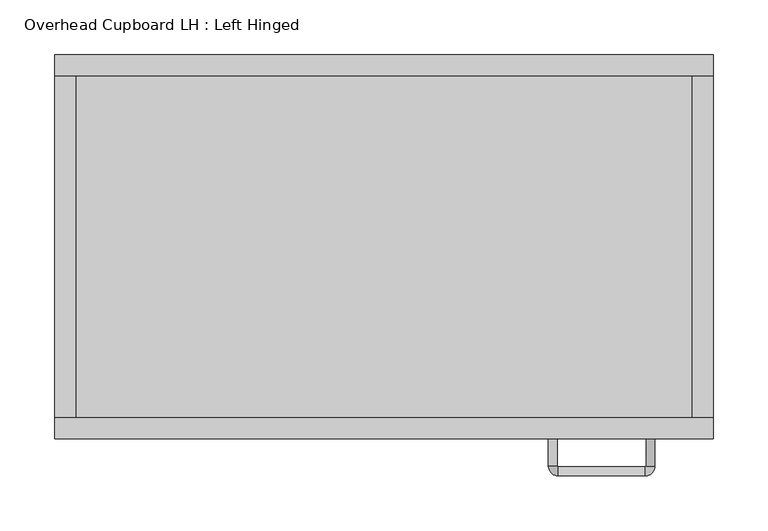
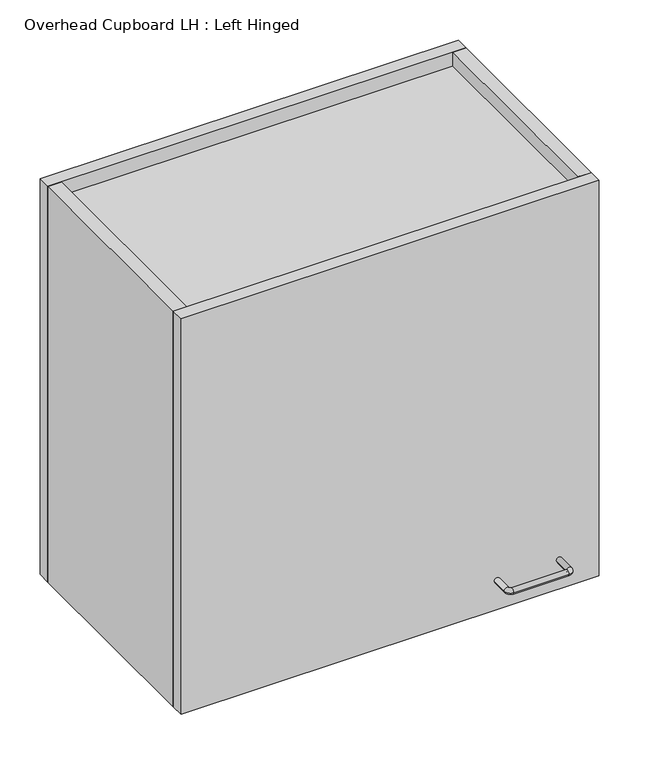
"""IFC4 building model written with IfcOpenShell, lengths in millimetres: furniture geometry, Overhead Cupboard LH : Left Hinged."""

import ifcopenshell
import ifcopenshell.guid

model = None  # the IFC model being written
_history = None  # IfcOwnerHistory: only IFC2X3 demands one
_inside = {}  # id of a spatial element -> (the spatial element, [elements in it])
_under = {}  # id of a project, library or spatial element -> (it, [spatial elements below it])
_declared = {}  # id of a project -> (the project, [libraries it declares])
_typed = {}  # id of a type object -> (the type object, [elements of that type])
_made_of = {}  # id of a material, layer set ... -> (it, [elements and type objects made of it])


def new_model(schema):
    """Start an empty IFC model of exactly this schema.

    Asked for "IFC4X3", IfcOpenShell would pick the latest addendum, in which some entities
    have other attributes; the version numbers below select the first issue.
    IFC2X3 requires an IfcOwnerHistory on every rooted entity: one is made here for all.
    """
    global model, _history
    if schema == "IFC4X3":
        model = ifcopenshell.file(schema_version=(4, 3, 0, 0))
    else:
        model = ifcopenshell.file(schema=schema)
    _inside.clear()
    _under.clear()
    _declared.clear()
    _typed.clear()
    _made_of.clear()
    _history = None
    if model.schema == "IFC2X3":
        org = make("IfcOrganization", Name="unknown")
        user = make(
            "IfcPersonAndOrganization",
            ThePerson=make("IfcPerson", FamilyName="unknown"),
            TheOrganization=org,
        )
        app = make(
            "IfcApplication",
            ApplicationDeveloper=org,
            Version="unknown",
            ApplicationFullName="unknown",
            ApplicationIdentifier="unknown",
        )
        _history = make(
            "IfcOwnerHistory",
            OwningUser=user,
            OwningApplication=app,
            ChangeAction="ADDED",
            CreationDate=0,
        )
    return model


def make(cls, **values):
    """One entity of the class cls with the attributes given. An attribute that is None is left unset."""
    return model.create_entity(
        cls, **{name: value for name, value in values.items() if value is not None}
    )


def rooted(cls, **values):
    """An entity with a GlobalId (a new one), such as an element, a storey or a relation."""
    return make(cls, GlobalId=ifcopenshell.guid.new(), OwnerHistory=_history, **values)


def si_unit(unit_type, name, prefix=None):
    """IfcSIUnit, for example si_unit("LENGTHUNIT", "METRE", prefix="MILLI")."""
    return make("IfcSIUnit", UnitType=unit_type, Prefix=prefix, Name=name)


def assignment(units):
    """IfcUnitAssignment: the units of a project."""
    return None if units is None else make("IfcUnitAssignment", Units=units)


def point(xyz):
    """IfcCartesianPoint."""
    return None if xyz is None else make("IfcCartesianPoint", Coordinates=xyz)


def direction(xyz):
    """IfcDirection."""
    return None if xyz is None else make("IfcDirection", DirectionRatios=xyz)


def frame(location, z_axis=None, x_axis=None):
    """IfcAxis2Placement3D, a coordinate frame: its origin and axes. An axis left out is left unset."""
    return make(
        "IfcAxis2Placement3D",
        Location=point(location),
        Axis=direction(z_axis),
        RefDirection=direction(x_axis),
    )


def origin():
    """The frame at (0, 0, 0) with its axes left unset."""
    return frame((0.0, 0.0, 0.0))


def place(relative_to, where):
    """IfcLocalPlacement: puts the frame where relative to a parent placement (None: the world)."""
    return make(
        "IfcLocalPlacement", PlacementRelTo=relative_to, RelativePlacement=where
    )


def context(
    kind, dimensions, precision=None, world=None, true_north=None, identifier=None
):
    """IfcGeometricRepresentationContext, for example the 3D "Model" context."""
    return make(
        "IfcGeometricRepresentationContext",
        ContextIdentifier=identifier,
        ContextType=kind,
        CoordinateSpaceDimension=dimensions,
        Precision=precision,
        WorldCoordinateSystem=world,
        TrueNorth=true_north,
    )


def project(units=None, contexts=None):
    """IfcProject with its units and contexts."""
    return rooted(
        "IfcProject",
        Name="project",
        RepresentationContexts=contexts,
        UnitsInContext=assignment(units),
    )


def spatial(cls, under=None, at=None, **own):
    """A site, building, storey or space (cls), placed at a placement, below another one or the project."""
    s = rooted(cls, ObjectPlacement=at, **own)
    if under is not None:
        _under.setdefault(under.id(), (under, []))[1].append(s)
    return s


def polyline(points):
    """IfcPolyline through the points."""
    return make("IfcPolyline", Points=[point(p) for p in points])


def circle_curve(where, radius):
    """IfcCircle in the frame where."""
    return make("IfcCircle", Position=where, Radius=radius)


def ellipse_curve(where, semi_axis1, semi_axis2):
    """IfcEllipse in the frame where."""
    return make(
        "IfcEllipse", Position=where, SemiAxis1=semi_axis1, SemiAxis2=semi_axis2
    )


def trimmed(basis, trim1, trim2, sense, master):
    """IfcTrimmedCurve: the piece of a basis curve between two trims."""
    return make(
        "IfcTrimmedCurve",
        BasisCurve=basis,
        Trim1=trim1,
        Trim2=trim2,
        SenseAgreement=sense,
        MasterRepresentation=master,
    )


def outline(outer, holes=None, kind="AREA"):
    """IfcArbitraryClosedProfileDef: a profile drawn as a closed curve; with holes, ...WithVoids."""
    if holes is None:
        return make("IfcArbitraryClosedProfileDef", ProfileType=kind, OuterCurve=outer)
    return make(
        "IfcArbitraryProfileDefWithVoids",
        ProfileType=kind,
        OuterCurve=outer,
        InnerCurves=holes,
    )


def extrude(swept, where, along, depth):
    """IfcExtrudedAreaSolid: the profile swept, set in the frame where, extruded along a direction by depth."""
    return make(
        "IfcExtrudedAreaSolid",
        SweptArea=swept,
        Position=where,
        ExtrudedDirection=direction(along),
        Depth=depth,
    )


def shape(context_of_items, identifier, shape_type, items):
    """IfcShapeRepresentation: the items that make up one representation, for example the "Body"."""
    return make(
        "IfcShapeRepresentation",
        ContextOfItems=context_of_items,
        RepresentationIdentifier=identifier,
        RepresentationType=shape_type,
        Items=items,
    )


def source(mapping_origin, context_of_items, identifier, shape_type, items):
    """IfcRepresentationMap: a shape defined once, which mapped items show again and again."""
    return make(
        "IfcRepresentationMap",
        MappingOrigin=mapping_origin,
        MappedRepresentation=shape(context_of_items, identifier, shape_type, items),
    )


def transform(
    local_origin,
    x_axis=None,
    y_axis=None,
    z_axis=None,
    scale=None,
    scale2=None,
    scale3=None,
    uniform=True,
):
    """IfcCartesianTransformationOperator3D, or its non-uniform kind. x_axis, y_axis, z_axis: its Axis1, 2, 3."""
    if uniform:
        return make(
            "IfcCartesianTransformationOperator3D",
            Axis1=direction(x_axis),
            Axis2=direction(y_axis),
            LocalOrigin=point(local_origin),
            Scale=scale,
            Axis3=direction(z_axis),
        )
    return make(
        "IfcCartesianTransformationOperator3DnonUniform",
        Axis1=direction(x_axis),
        Axis2=direction(y_axis),
        LocalOrigin=point(local_origin),
        Scale=scale,
        Axis3=direction(z_axis),
        Scale2=scale2,
        Scale3=scale3,
    )


def mapped(mapping_source, mapping_target):
    """IfcMappedItem: shows the shape of a source again, moved by a transform."""
    return make(
        "IfcMappedItem", MappingSource=mapping_source, MappingTarget=mapping_target
    )


def made_of(thing, what):
    """Note that an element or type object is made of a material, layer set ...; save() writes the relation."""
    if what is not None:
        _made_of.setdefault(what.id(), (what, []))[1].append(thing)
    return thing


def element(
    cls,
    number,
    at=None,
    inside=None,
    cuts=None,
    type_object=None,
    material=None,
    context=None,
    identifier="Body",
    shape_type=None,
    held_by="IfcProductDefinitionShape",
    body=None,
    shapes=None,
    **own,
):
    """One element of the class cls, such as IfcWall. Its Tag is "e" and its number.

    at: its placement. inside: the storey or other place that contains it. cuts: it is an
    opening in that element (IfcRelVoidsElement). A single representation is given by context,
    identifier, shape_type and body (its items); several are given by shapes. held_by: the class
    of the entity that holds the representations. save() writes the other relations.
    """
    e = rooted(cls, Tag="e%d" % number, ObjectPlacement=at, **own)
    if body is not None:
        shapes = [shape(context, identifier, shape_type, body)]
    if shapes is not None:
        e.Representation = make(held_by, Representations=shapes)
    if inside is not None:
        _inside.setdefault(inside.id(), (inside, []))[1].append(e)
    if cuts is not None:
        rooted(
            "IfcRelVoidsElement", RelatingBuildingElement=cuts, RelatedOpeningElement=e
        )
    if type_object is not None:
        _typed.setdefault(type_object.id(), (type_object, []))[1].append(e)
    return made_of(e, material)


def aggregate(whole, parts):
    """IfcRelAggregates: a whole, such as a stair, and the parts it consists of."""
    return rooted("IfcRelAggregates", RelatingObject=whole, RelatedObjects=parts)


def save(model, path):
    """Write the relations noted so far, then the file.

    IfcRelAggregates (storeys below a building ...), IfcRelContainedInSpatialStructure (elements
    in a storey), IfcRelDefinesByType, IfcRelAssociatesMaterial and IfcRelDeclares: one each for
    every whole, place, type object, material and project.
    """
    for whole, parts in _under.values():
        aggregate(whole, parts)
    for where, things in _inside.values():
        rooted(
            "IfcRelContainedInSpatialStructure",
            RelatedElements=things,
            RelatingStructure=where,
        )
    for kind, things in _typed.values():
        rooted("IfcRelDefinesByType", RelatedObjects=things, RelatingType=kind)
    for what, things in _made_of.values():
        rooted("IfcRelAssociatesMaterial", RelatedObjects=things, RelatingMaterial=what)
    for by, libraries in _declared.values():
        rooted("IfcRelDeclares", RelatingContext=by, RelatedDefinitions=libraries)
    model.write(path)


def plane_surface(at):
    """IfcPlane: the flat surface through the origin of the frame at, square to its z axis."""
    return make("IfcPlane", Position=at)


def cylinder_surface(at, radius):
    """IfcCylindricalSurface: all points at the distance radius from the z axis of the frame at."""
    return make("IfcCylindricalSurface", Position=at, Radius=radius)


def revolved_surface(curve, axis_point, axis_direction):
    """IfcSurfaceOfRevolution: the curve turned about the line through axis_point along axis_direction."""
    return make(
        "IfcSurfaceOfRevolution",
        SweptCurve=make("IfcArbitraryOpenProfileDef", ProfileType="CURVE", Curve=curve),
        AxisPosition=make("IfcAxis1Placement", Location=point(axis_point), Axis=direction(axis_direction)),
    )


def advanced_brep(points, edges, surfaces, faces):
    """IfcAdvancedBrep: a solid bounded by faces that lie on surfaces and meet in shared edges.

    An edge is (start, end): straight between two places in points (the first is 0);
    or (start, end, curve); or (start, end, curve, False) where it runs against its curve.
    A face is (place in surfaces, loops), or (place, loops, False) where it looks against
    its surface's normal. A loop lists edges by number (the first is 1), with a minus sign
    where the edge is run from its end to its start. The first loop is the outer one.
    """
    corners = [point(p) for p in points]
    vertices = [make("IfcVertexPoint", VertexGeometry=c) for c in corners]
    made = []
    for start, end, *more in edges:
        made.append(
            make(
                "IfcEdgeCurve",
                EdgeStart=vertices[start],
                EdgeEnd=vertices[end],
                EdgeGeometry=more[0] if more else make("IfcPolyline", Points=[corners[start], corners[end]]),
                SameSense=more[1] if len(more) > 1 else True,
            )
        )
    hull = []
    for where, loops, *sense in faces:
        bounds = []
        for j, loop in enumerate(loops):
            ring = [make("IfcOrientedEdge", EdgeElement=made[abs(k) - 1], Orientation=k > 0) for k in loop]
            bounds.append(
                make(
                    "IfcFaceOuterBound" if j == 0 else "IfcFaceBound",
                    Bound=make("IfcEdgeLoop", EdgeList=ring),
                    Orientation=True,
                )
            )
        hull.append(make("IfcAdvancedFace", Bounds=bounds, FaceSurface=surfaces[where], SameSense=sense[0] if sense else True))
    return make("IfcAdvancedBrep", Outer=make("IfcClosedShell", CfsFaces=hull))


def overhead_cupboard_lh_left_hinged_0fa58f85(model_context):
    return source(origin(), model_context, "Body", "SolidModel", [
        advanced_brep(
        [(239.8750083, -350.0, 1544.45), (231.7587693, -350.0, 1544.45), (231.7587693, -374.6956341, 1544.45), (239.8750083, -374.6956341, 1544.45), (231.0543888, -375.4000146, 1544.45), (231.0543888, -383.5162536, 1544.45), (151.5456112, -375.4000146, 1544.45), (151.5456112, -383.5162536, 1544.45), (150.8412307, -374.6956341, 1544.45), (142.7249917, -374.6956341, 1544.45), (142.7249917, -350.0, 1544.45), (150.8412307, -350.0, 1544.45)],
        [
            (0, 1, circle_curve(frame((235.8168888, -350.0, 1544.45), z_axis=(0.0, 1.0, 0.0), x_axis=(-1.0, 0.0, 0.0)), 4.0581195)),
            (1, 0, circle_curve(frame((235.8168888, -350.0, 1544.45), z_axis=(0.0, 1.0, 0.0), x_axis=(-1.0, 0.0, 0.0)), 4.0581195)),
            (1, 2),
            (2, 3, circle_curve(frame((235.8168888, -374.6956341, 1544.45), z_axis=(0.0, 1.0, 0.0), x_axis=(-1.0, 0.0, 0.0)), 4.0581195)),
            (3, 0),
            (3, 2, circle_curve(frame((235.8168888, -374.6956341, 1544.45), z_axis=(0.0, 1.0, 0.0), x_axis=(-1.0, 0.0, 0.0)), 4.0581195)),
            (4, 5, circle_curve(frame((231.0543888, -379.4581341, 1544.45), z_axis=(1.0, 0.0, 0.0), x_axis=(0.0, 1.0, 0.0)), 4.0581195)),
            (5, 3, circle_curve(frame((231.0543888, -374.6956341, 1544.45), z_axis=(0.0, 0.0, 1.0), x_axis=(1.0, 0.0, 0.0)), 8.8206195)),
            (2, 4, circle_curve(frame((231.0543888, -374.6956341, 1544.45), z_axis=(0.0, 0.0, -1.0), x_axis=(1.0, 0.0, 0.0)), 0.7043805)),
            (5, 4, circle_curve(frame((231.0543888, -379.4581341, 1544.45), z_axis=(1.0, 0.0, 0.0), x_axis=(0.0, 1.0, 0.0)), 4.0581195)),
            (4, 6),
            (6, 7, circle_curve(frame((151.5456112, -379.4581341, 1544.45), z_axis=(1.0, 0.0, 0.0), x_axis=(0.0, 1.0, 0.0)), 4.0581195)),
            (7, 5),
            (7, 6, circle_curve(frame((151.5456112, -379.4581341, 1544.45), z_axis=(1.0, 0.0, 0.0), x_axis=(0.0, 1.0, 0.0)), 4.0581195)),
            (8, 9, circle_curve(frame((146.7831112, -374.6956341, 1544.45), z_axis=(0.0, -1.0, 0.0), x_axis=(1.0, 0.0, 0.0)), 4.0581195)),
            (9, 7, circle_curve(frame((151.5456112, -374.6956341, 1544.45), z_axis=(0.0, 0.0, 1.0), x_axis=(0.0, -1.0, 0.0)), 8.8206195)),
            (6, 8, circle_curve(frame((151.5456112, -374.6956341, 1544.45), z_axis=(0.0, 0.0, -1.0), x_axis=(0.0, -1.0, 0.0)), 0.7043805)),
            (9, 8, circle_curve(frame((146.7831112, -374.6956341, 1544.45), z_axis=(0.0, -1.0, 0.0), x_axis=(1.0, 0.0, 0.0)), 4.0581195)),
            (10, 11, circle_curve(frame((146.7831112, -350.0, 1544.45), z_axis=(0.0, 1.0, 0.0), x_axis=(1.0, 0.0, 0.0)), 4.0581195)),
            (11, 10, circle_curve(frame((146.7831112, -350.0, 1544.45), z_axis=(0.0, 1.0, 0.0), x_axis=(1.0, 0.0, 0.0)), 4.0581195)),
            (8, 11),
            (10, 9),
        ],
        [
            plane_surface(frame((235.8168888, -350.0, 1544.45), z_axis=(0.0, 1.0, 0.0), x_axis=(0.0, 0.0, 1.0))),
            cylinder_surface(frame((235.8168888, -350.0, 1544.45), z_axis=(0.0, 1.0, 0.0), x_axis=(-1.0, 0.0, 0.0)), 4.0581195),
            revolved_surface(trimmed(ellipse_curve(frame((235.8168888, -374.6956341, 1544.45), z_axis=(0.0, -1.0, 0.0), x_axis=(-1.0, 0.0, 0.0)), 4.0581195, 4.0581195), [point((239.8750083, -374.6956341, 1544.45))], [point((231.7587693, -374.6956341, 1544.45))], True, "CARTESIAN"), (231.0543888, -374.6956341, 1544.45), (0.0, 0.0, 1.0)),
            revolved_surface(trimmed(ellipse_curve(frame((235.8168888, -374.6956341, 1544.45), z_axis=(0.0, -1.0, 0.0), x_axis=(-1.0, 0.0, 0.0)), 4.0581195, 4.0581195), [point((231.7587693, -374.6956341, 1544.45))], [point((239.8750083, -374.6956341, 1544.45))], True, "CARTESIAN"), (231.0543888, -374.6956341, 1544.45), (0.0, 0.0, 1.0)),
            cylinder_surface(frame((231.0543888, -379.4581341, 1544.45), z_axis=(1.0, 0.0, 0.0), x_axis=(0.0, 1.0, 0.0)), 4.0581195),
            revolved_surface(trimmed(ellipse_curve(frame((151.5456112, -379.4581341, 1544.45), z_axis=(-1.0, 0.0, 0.0), x_axis=(0.0, 1.0, 0.0)), 4.0581195, 4.0581195), [point((151.5456112, -383.5162536, 1544.45))], [point((151.5456112, -375.4000146, 1544.45))], True, "CARTESIAN"), (151.5456112, -374.6956341, 1544.45), (0.0, 0.0, 1.0)),
            revolved_surface(trimmed(ellipse_curve(frame((151.5456112, -379.4581341, 1544.45), z_axis=(-1.0, 0.0, 0.0), x_axis=(0.0, 1.0, 0.0)), 4.0581195, 4.0581195), [point((151.5456112, -375.4000146, 1544.45))], [point((151.5456112, -383.5162536, 1544.45))], True, "CARTESIAN"), (151.5456112, -374.6956341, 1544.45), (0.0, 0.0, 1.0)),
            plane_surface(frame((146.7831112, -350.0, 1544.45), z_axis=(0.0, 1.0, 0.0), x_axis=(0.0, 0.0, 1.0))),
            cylinder_surface(frame((146.7831112, -374.6956341, 1544.45), z_axis=(0.0, -1.0, 0.0), x_axis=(1.0, 0.0, 0.0)), 4.0581195),
        ],
        [
            (0, [[1, 2]]),
            (1, [[3, 4, 5, -2]]),
            (1, [[-5, 6, -3, -1]]),
            (2, [[7, 8, -4, 9]]),
            (3, [[10, -9, -6, -8]]),
            (4, [[11, 12, 13, -7]]),
            (4, [[-13, 14, -11, -10]]),
            (5, [[15, 16, -12, 17]]),
            (6, [[18, -17, -14, -16]]),
            (7, [[19, 20]]),
            (8, [[21, -19, 22, -15]]),
            (8, [[-22, -20, -21, -18]]),
        ],
    ),
        extrude(outline(polyline([(-288.05, -19.05), (273.85, -19.05), (273.85, -342.8781634), (-288.05, -342.8781634), (-288.05, -19.05)])), frame((0.0, 0.0, 2040.6478651), z_axis=(0.0, 0.0, 1.0), x_axis=(1.0, 0.0, 0.0)), (0.0, 0.0, 1.0), 38.3521349),
        extrude(outline(polyline([(-307.1, -330.9390817), (292.9, -330.9390817), (292.9, -350.0), (-307.1, -350.0), (-307.1, -330.9390817)])), frame((0.0, 0.0, 1500.0), z_axis=(0.0, 0.0, 1.0), x_axis=(1.0, 0.0, 0.0)), (0.0, 0.0, 1.0), 600.0),
        extrude(outline(polyline([(-307.1, 0.0), (292.9, 0.0), (292.9, -19.05), (-307.1, -19.05), (-307.1, 0.0)])), frame((0.0, 0.0, 1500.0), z_axis=(0.0, 0.0, 1.0), x_axis=(1.0, 0.0, 0.0)), (0.0, 0.0, 1.0), 600.0),
        extrude(outline(polyline([(-307.1, -330.9390817), (-307.1, -19.05), (-288.05, -19.05), (-288.05, -330.9390817), (-307.1, -330.9390817)])), frame((0.0, 0.0, 1500.0), z_axis=(0.0, 0.0, 1.0), x_axis=(1.0, 0.0, 0.0)), (0.0, 0.0, 1.0), 600.0),
        extrude(outline(polyline([(273.85, -330.9390817), (273.85, -19.05), (292.9, -19.05), (292.9, -330.9390817), (273.85, -330.9390817)])), frame((0.0, 0.0, 1500.0), z_axis=(0.0, 0.0, 1.0), x_axis=(1.0, 0.0, 0.0)), (0.0, 0.0, 1.0), 600.0),
    ])


if __name__ == "__main__":
    model = new_model("IFC4")
    model_context = context("Model", 3, world=origin())
    ifc_project = project(units=[si_unit("LENGTHUNIT", "METRE", prefix="MILLI")], contexts=[model_context])
    site = spatial("IfcSite", under=ifc_project)
    building = spatial("IfcBuilding", under=site)
    placement = place(None, origin())
    overhead_cupboard_lh_left_hinged_shape = overhead_cupboard_lh_left_hinged_0fa58f85(model_context)
    element("IfcFurniture", 1, ObjectType="Overhead Cupboard LH : Left Hinged", at=placement, inside=building, context=model_context, shape_type="MappedRepresentation", body=[
        mapped(overhead_cupboard_lh_left_hinged_shape, transform((0.0, 0.0, 0.0), x_axis=(1.0, 0.0, 0.0), y_axis=(0.0, 1.0, 0.0), z_axis=(0.0, 0.0, 1.0))),
    ])
    save(model, "model.ifc")
